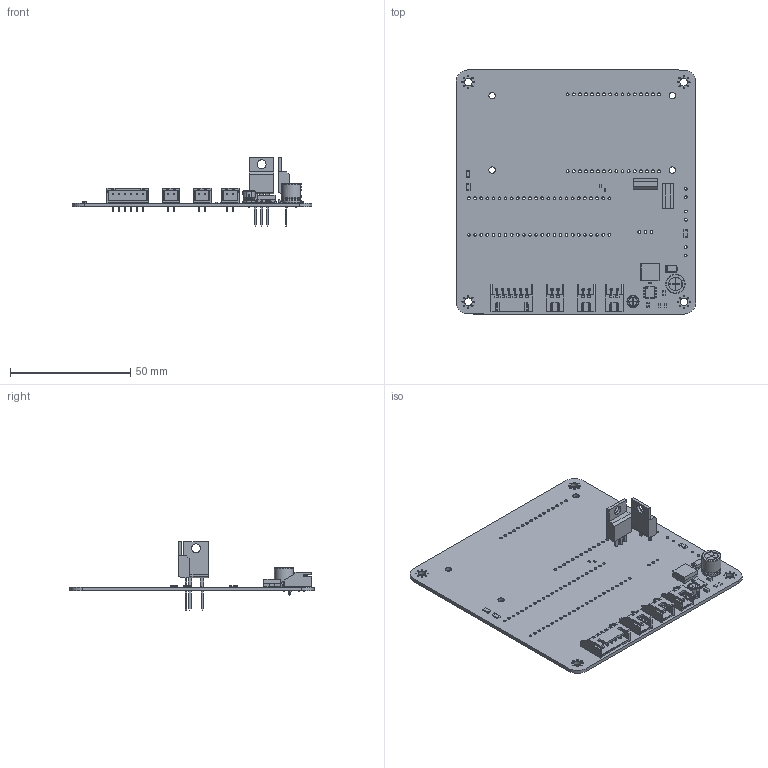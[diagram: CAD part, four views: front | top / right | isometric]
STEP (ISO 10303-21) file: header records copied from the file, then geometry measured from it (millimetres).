
FILE_DESCRIPTION(('KiCad electronic assembly'),'2;1');
FILE_NAME('PCB.step','2026-03-28T11:32:20',('Pcbnew'),('Kicad'), 'Open CASCADE STEP processor 7.8','KiCad to STEP converter','Unknown' );
FILE_SCHEMA(('AUTOMOTIVE_DESIGN { 1 0 10303 214 1 1 1 1 }'));
Length unit declared in the file: millimetre
Products named in the file (20): PCB 1; C_0805_2012Metric; CP_Radial_D8.0mm_P3.50mm; JST_XH_S2B-XH-A_1x02_P2.50mm_Horizontal; D_SMA; R_0603_1608Metric; JST_XH_S6B-XH-A_1x06_P2.50mm_Horizontal; R_0402_1005Metric; TI_SO-PowerPAD-8; SRP7030-100M; Chamfer; FilletPin1; FilletPin2; R_1206_3216Metric; C_0402_1005Metric; Fuse_1206_3216Metric; TO-220-3_Vertical; CP_Radial_D5.0mm_P2.00mm; TO-220-2_Vertical; CapstoneMk2_PCB
Assembly tree (25 placements, depth 3):
  PCB 1
    C_0805_2012Metric  x2
    CP_Radial_D8.0mm_P3.50mm
    JST_XH_S2B-XH-A_1x02_P2.50mm_Horizontal  x3
    D_SMA
    R_0603_1608Metric  x2
    JST_XH_S6B-XH-A_1x06_P2.50mm_Horizontal
    R_0402_1005Metric  x2
    TI_SO-PowerPAD-8
    SRP7030-100M
      Chamfer
      FilletPin1
      FilletPin2
    R_1206_3216Metric  x2
    C_0402_1005Metric
    Fuse_1206_3216Metric
    TO-220-3_Vertical
    CP_Radial_D5.0mm_P2.00mm
    TO-220-2_Vertical
    CapstoneMk2_PCB
Bounding box: 99.77 x 101.65 x 28.52 mm (x, y, z)
Volume: 17607.7 mm3; surface area: 25957.3 mm2
Topology: 24 solids, 26 shells, 1385 faces, 3696 edges, 2400 vertices
Faces by surface type: plane 957, cylinder 357, bspline 56, revolution 11, torus 4
Full cylindrical faces by diameter (mm): 0.2 x1, 0.5 x36, 0.8 x4, 0.95 x6, 1 x6, 1.1 x11, 1.11 x48, 1.143 x3, 1.2 x32, 2.7 x4, 3.2 x4, 3.735 x2
Entity records: 41503 total; most frequent: CARTESIAN_POINT 7601, ORIENTED_EDGE 5692, DIRECTION 5457, EDGE_CURVE 2846, LINE 2086, VECTOR 2086, VERTEX_POINT 1844, AXIS2_PLACEMENT_3D 1680
